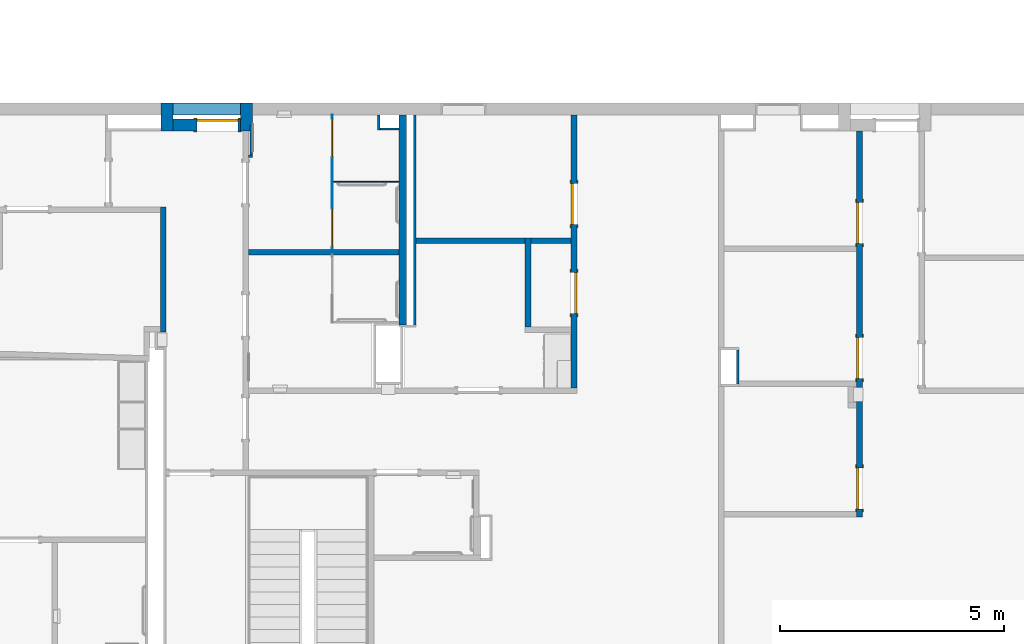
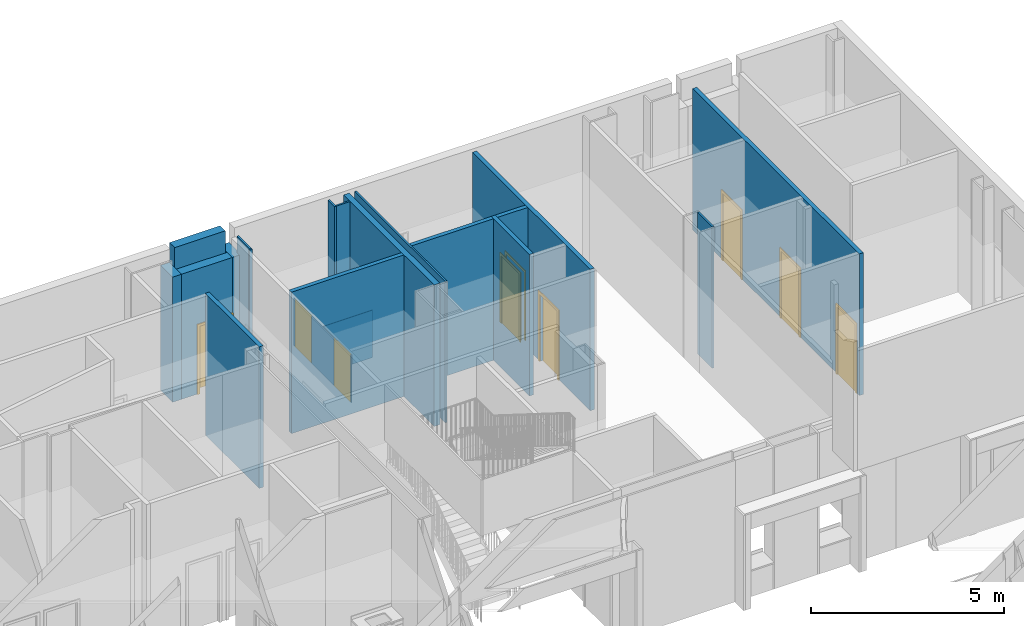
# One storey, part 40 of 82: 20 walls, 8 doors, 8 openings.
"""IFC2X3 building model written with IfcOpenShell, lengths in metres."""

import ifcopenshell
import ifcopenshell.guid

model = None  # the IFC model being written
_history = None  # IfcOwnerHistory: only IFC2X3 demands one
_inside = {}  # id of a spatial element -> (the spatial element, [elements in it])
_under = {}  # id of a project, library or spatial element -> (it, [spatial elements below it])
_declared = {}  # id of a project -> (the project, [libraries it declares])
_typed = {}  # id of a type object -> (the type object, [elements of that type])
_made_of = {}  # id of a material, layer set ... -> (it, [elements and type objects made of it])


def new_model(schema):
    """Start an empty IFC model of exactly this schema.

    Asked for "IFC4X3", IfcOpenShell would pick the latest addendum, in which some entities
    have other attributes; the version numbers below select the first issue.
    IFC2X3 requires an IfcOwnerHistory on every rooted entity: one is made here for all.
    """
    global model, _history
    if schema == "IFC4X3":
        model = ifcopenshell.file(schema_version=(4, 3, 0, 0))
    else:
        model = ifcopenshell.file(schema=schema)
    _inside.clear()
    _under.clear()
    _declared.clear()
    _typed.clear()
    _made_of.clear()
    _history = None
    if model.schema == "IFC2X3":
        org = make("IfcOrganization", Name="unknown")
        user = make(
            "IfcPersonAndOrganization",
            ThePerson=make("IfcPerson", FamilyName="unknown"),
            TheOrganization=org,
        )
        app = make(
            "IfcApplication",
            ApplicationDeveloper=org,
            Version="unknown",
            ApplicationFullName="unknown",
            ApplicationIdentifier="unknown",
        )
        _history = make(
            "IfcOwnerHistory",
            OwningUser=user,
            OwningApplication=app,
            ChangeAction="ADDED",
            CreationDate=0,
        )
    return model


def make(cls, **values):
    """One entity of the class cls with the attributes given. An attribute that is None is left unset."""
    return model.create_entity(
        cls, **{name: value for name, value in values.items() if value is not None}
    )


def entity(cls, *values):
    """Any entity or typed value of the class cls, its attributes in the order of the schema. None: left unset."""
    e = model.create_entity(cls)
    for i, value in enumerate(values):
        if value is not None:
            e[i] = value
    return e


def rooted(cls, **values):
    """An entity with a GlobalId (a new one), such as an element, a storey or a relation."""
    return make(cls, GlobalId=ifcopenshell.guid.new(), OwnerHistory=_history, **values)


def si_unit(unit_type, name, prefix=None):
    """IfcSIUnit, for example si_unit("LENGTHUNIT", "METRE", prefix="MILLI")."""
    return make("IfcSIUnit", UnitType=unit_type, Prefix=prefix, Name=name)


def converted_unit(unit_type, name, factor, base, dimensions=None, offset=None):
    """IfcConversionBasedUnit, such as the inch: factor (a typed value) times the base unit."""
    return make(
        "IfcConversionBasedUnit"
        if offset is None
        else "IfcConversionBasedUnitWithOffset",
        ConversionOffset=offset,
        Dimensions=None
        if dimensions is None
        else entity("IfcDimensionalExponents", *dimensions),
        UnitType=unit_type,
        Name=name,
        ConversionFactor=make(
            "IfcMeasureWithUnit", ValueComponent=factor, UnitComponent=base
        ),
    )


def assignment(units):
    """IfcUnitAssignment: the units of a project."""
    return None if units is None else make("IfcUnitAssignment", Units=units)


def point(xyz):
    """IfcCartesianPoint."""
    return None if xyz is None else make("IfcCartesianPoint", Coordinates=xyz)


def direction(xyz):
    """IfcDirection."""
    return None if xyz is None else make("IfcDirection", DirectionRatios=xyz)


def frame(location, z_axis=None, x_axis=None):
    """IfcAxis2Placement3D, a coordinate frame: its origin and axes. An axis left out is left unset."""
    return make(
        "IfcAxis2Placement3D",
        Location=point(location),
        Axis=direction(z_axis),
        RefDirection=direction(x_axis),
    )


def frame_2d(location, x_axis=None):
    """IfcAxis2Placement2D, a coordinate frame in the plane: its origin and x axis."""
    return make(
        "IfcAxis2Placement2D", Location=point(location), RefDirection=direction(x_axis)
    )


def origin():
    """The frame at (0, 0, 0) with its axes left unset."""
    return frame((0.0, 0.0, 0.0))


def origin_2d_with_axis():
    """The frame at (0, 0) in the plane with the x axis (1, 0) written out."""
    return frame_2d((0.0, 0.0), x_axis=(1.0, 0.0))


def place(relative_to, where):
    """IfcLocalPlacement: puts the frame where relative to a parent placement (None: the world)."""
    return make(
        "IfcLocalPlacement", PlacementRelTo=relative_to, RelativePlacement=where
    )


def context(
    kind, dimensions, precision=None, world=None, true_north=None, identifier=None
):
    """IfcGeometricRepresentationContext, for example the 3D "Model" context."""
    return make(
        "IfcGeometricRepresentationContext",
        ContextIdentifier=identifier,
        ContextType=kind,
        CoordinateSpaceDimension=dimensions,
        Precision=precision,
        WorldCoordinateSystem=world,
        TrueNorth=true_north,
    )


def project(units=None, contexts=None):
    """IfcProject with its units and contexts."""
    return rooted(
        "IfcProject",
        Name="project",
        RepresentationContexts=contexts,
        UnitsInContext=assignment(units),
    )


def spatial(cls, under=None, at=None, **own):
    """A site, building, storey or space (cls), placed at a placement, below another one or the project."""
    s = rooted(cls, ObjectPlacement=at, **own)
    if under is not None:
        _under.setdefault(under.id(), (under, []))[1].append(s)
    return s


def polyline(points):
    """IfcPolyline through the points."""
    return make("IfcPolyline", Points=[point(p) for p in points])


def profile(cls, at=None, kind="AREA", **sizes):
    """A parametric profile (cls). Its sizes go by their IFC names, for example OverallWidth=200.0."""
    return make(cls, ProfileType=kind, Position=at, **sizes)


def rectangle(**sizes):
    """IfcRectangleProfileDef."""
    return profile("IfcRectangleProfileDef", **sizes)


def outline(outer, holes=None, kind="AREA"):
    """IfcArbitraryClosedProfileDef: a profile drawn as a closed curve; with holes, ...WithVoids."""
    if holes is None:
        return make("IfcArbitraryClosedProfileDef", ProfileType=kind, OuterCurve=outer)
    return make(
        "IfcArbitraryProfileDefWithVoids",
        ProfileType=kind,
        OuterCurve=outer,
        InnerCurves=holes,
    )


def extrude(swept, where, along, depth):
    """IfcExtrudedAreaSolid: the profile swept, set in the frame where, extruded along a direction by depth."""
    return make(
        "IfcExtrudedAreaSolid",
        SweptArea=swept,
        Position=where,
        ExtrudedDirection=direction(along),
        Depth=depth,
    )


def shape(context_of_items, identifier, shape_type, items):
    """IfcShapeRepresentation: the items that make up one representation, for example the "Body"."""
    return make(
        "IfcShapeRepresentation",
        ContextOfItems=context_of_items,
        RepresentationIdentifier=identifier,
        RepresentationType=shape_type,
        Items=items,
    )


def source(mapping_origin, context_of_items, identifier, shape_type, items):
    """IfcRepresentationMap: a shape defined once, which mapped items show again and again."""
    return make(
        "IfcRepresentationMap",
        MappingOrigin=mapping_origin,
        MappedRepresentation=shape(context_of_items, identifier, shape_type, items),
    )


def transform(
    local_origin,
    x_axis=None,
    y_axis=None,
    z_axis=None,
    scale=None,
    scale2=None,
    scale3=None,
    uniform=True,
):
    """IfcCartesianTransformationOperator3D, or its non-uniform kind. x_axis, y_axis, z_axis: its Axis1, 2, 3."""
    if uniform:
        return make(
            "IfcCartesianTransformationOperator3D",
            Axis1=direction(x_axis),
            Axis2=direction(y_axis),
            LocalOrigin=point(local_origin),
            Scale=scale,
            Axis3=direction(z_axis),
        )
    return make(
        "IfcCartesianTransformationOperator3DnonUniform",
        Axis1=direction(x_axis),
        Axis2=direction(y_axis),
        LocalOrigin=point(local_origin),
        Scale=scale,
        Axis3=direction(z_axis),
        Scale2=scale2,
        Scale3=scale3,
    )


def mapped(mapping_source, mapping_target):
    """IfcMappedItem: shows the shape of a source again, moved by a transform."""
    return make(
        "IfcMappedItem", MappingSource=mapping_source, MappingTarget=mapping_target
    )


def material(Name=None, Category=None):
    """IfcMaterial."""
    return make("IfcMaterial", Name=Name, Category=Category)


def layer(
    of_material, thickness, ventilated=None, Name=None, Category=None, Priority=None
):
    """IfcMaterialLayer: one layer of a wall or slab, of a material (None: an air gap)."""
    return make(
        "IfcMaterialLayer",
        Material=of_material,
        LayerThickness=thickness,
        IsVentilated=ventilated,
        Name=Name,
        Category=Category,
        Priority=Priority,
    )


def layer_set(layers, Name=None):
    """IfcMaterialLayerSet."""
    return make("IfcMaterialLayerSet", MaterialLayers=layers, LayerSetName=Name)


def layer_usage(for_layer_set, set_direction, sense, offset, extent=None):
    """IfcMaterialLayerSetUsage: how a layer set lies in its element."""
    return make(
        "IfcMaterialLayerSetUsage",
        ForLayerSet=for_layer_set,
        LayerSetDirection=set_direction,
        DirectionSense=sense,
        OffsetFromReferenceLine=offset,
        ReferenceExtent=extent,
    )


def made_of(thing, what):
    """Note that an element or type object is made of a material, layer set ...; save() writes the relation."""
    if what is not None:
        _made_of.setdefault(what.id(), (what, []))[1].append(thing)
    return thing


def type_object(cls, material=None, **own):
    """A type object (cls), such as IfcWallType, which elements share."""
    return made_of(rooted(cls, **own), material)


def type_shapes(of_type, sources):
    """Give a type object the sources (RepresentationMaps) that its elements show as mapped items."""
    of_type.RepresentationMaps = sources


def element(
    cls,
    number,
    at=None,
    inside=None,
    cuts=None,
    type_object=None,
    material=None,
    context=None,
    identifier="Body",
    shape_type=None,
    held_by="IfcProductDefinitionShape",
    body=None,
    shapes=None,
    **own,
):
    """One element of the class cls, such as IfcWall. Its Tag is "e" and its number.

    at: its placement. inside: the storey or other place that contains it. cuts: it is an
    opening in that element (IfcRelVoidsElement). A single representation is given by context,
    identifier, shape_type and body (its items); several are given by shapes. held_by: the class
    of the entity that holds the representations. save() writes the other relations.
    """
    e = rooted(cls, Tag="e%d" % number, ObjectPlacement=at, **own)
    if body is not None:
        shapes = [shape(context, identifier, shape_type, body)]
    if shapes is not None:
        e.Representation = make(held_by, Representations=shapes)
    if inside is not None:
        _inside.setdefault(inside.id(), (inside, []))[1].append(e)
    if cuts is not None:
        rooted(
            "IfcRelVoidsElement", RelatingBuildingElement=cuts, RelatedOpeningElement=e
        )
    if type_object is not None:
        _typed.setdefault(type_object.id(), (type_object, []))[1].append(e)
    return made_of(e, material)


def fill(opening, filler):
    """IfcRelFillsElement: the door or window that sits in an opening."""
    return rooted(
        "IfcRelFillsElement",
        RelatingOpeningElement=opening,
        RelatedBuildingElement=filler,
    )


def aggregate(whole, parts):
    """IfcRelAggregates: a whole, such as a stair, and the parts it consists of."""
    return rooted("IfcRelAggregates", RelatingObject=whole, RelatedObjects=parts)


def save(model, path):
    """Write the relations noted so far, then the file.

    IfcRelAggregates (storeys below a building ...), IfcRelContainedInSpatialStructure (elements
    in a storey), IfcRelDefinesByType, IfcRelAssociatesMaterial and IfcRelDeclares: one each for
    every whole, place, type object, material and project.
    """
    for whole, parts in _under.values():
        aggregate(whole, parts)
    for where, things in _inside.values():
        rooted(
            "IfcRelContainedInSpatialStructure",
            RelatedElements=things,
            RelatingStructure=where,
        )
    for kind, things in _typed.values():
        rooted("IfcRelDefinesByType", RelatedObjects=things, RelatingType=kind)
    for what, things in _made_of.values():
        rooted("IfcRelAssociatesMaterial", RelatedObjects=things, RelatingMaterial=what)
    for by, libraries in _declared.values():
        rooted("IfcRelDeclares", RelatingContext=by, RelatedDefinitions=libraries)
    model.write(path)


model = new_model("IFC2X3")

# Units and contexts
model_context = context("Model", 3, precision=1e-09, world=origin())
plan_context = context("Plan", 3, precision=1e-09, world=origin())
ifc_project = project(units=[si_unit("LENGTHUNIT", "METRE"), si_unit("AREAUNIT", "SQUARE_METRE"), si_unit("VOLUMEUNIT", "CUBIC_METRE"), converted_unit("PLANEANGLEUNIT", "DEGREE", entity("IfcRatioMeasure", 0.01745329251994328), si_unit("PLANEANGLEUNIT", "RADIAN"), dimensions=[0, 0, 0, 0, 0, 0, 0]), si_unit("TIMEUNIT", "SECOND")], contexts=[model_context, plan_context])

# Site, building, storey
site_placement = place(None, origin())
site = spatial("IfcSite", under=ifc_project, at=site_placement, Name="Default", CompositionType="ELEMENT")
building_placement = place(site_placement, origin())
building = spatial("IfcBuilding", under=site, at=building_placement, CompositionType="ELEMENT")
storey_placement = place(building_placement, origin())
storey = spatial("IfcBuildingStorey", under=building, at=storey_placement, Name="First Floor", CompositionType="ELEMENT", Elevation=-3.531500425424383e-13)

# Wall, openings, doors
ifc_material_1 = material(Name="Plasterboard")
ifc_layer_1 = layer(ifc_material_1, 0.016)
ifc_material_2 = material(Name="Metal - Stud Layer")
ifc_layer_2 = layer(ifc_material_2, 0.092)
ifc_layer_3 = layer(ifc_material_1, 0.016)
ifc_layer_set_1 = layer_set([ifc_layer_1, ifc_layer_2, ifc_layer_3], Name="Basic Wall:Interior - Partition (92mm Stud)")
ifc_layer_usage_1 = layer_usage(ifc_layer_set_1, "AXIS2", "NEGATIVE", 0.062)
wall_1_placement = place(storey_placement, frame((-4.362000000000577, 49.84299999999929, 0.0), z_axis=(0.0, 0.0, 1.0), x_axis=(0.0, -1.0, 0.0)))
wall_1 = element("IfcWallStandardCase", 1, at=wall_1_placement, inside=storey, material=ifc_layer_usage_1, Name="Basic Wall:Interior - Partition (92mm Stud)", ObjectType="Basic Wall:Interior - Partition (92mm Stud)", context=model_context, shape_type="SweptSolid", body=[
    extrude(rectangle(XDim=8.613000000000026, YDim=0.124, at=frame_2d((4.306500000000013, 0.0), x_axis=(-1.0, 0.0))), origin(), (0.0, 0.0, 1.0), 4.46800000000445),
])
opening_1_placement = place(wall_1_placement, frame((8.429000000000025, 0.06199999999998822, 0.0)))
opening_1 = element("IfcOpeningElement", 2, at=opening_1_placement, cuts=wall_1, Name="M_Single-Flush:0915 x 2134mm:0915 x 2134mm:1", ObjectType="Opening", context=model_context, shape_type="SweptSolid", body=[
    extrude(rectangle(XDim=0.9149999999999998, YDim=2.134, at=frame_2d((1.067, 0.4574999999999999), x_axis=(0.0, -1.0))), frame((0.0, 0.0, 0.0), z_axis=(0.0, -1.0, 0.0), x_axis=(0.0, 0.0, 1.0)), (0.0, 0.0, 1.0), 0.124),
])
opening_2_placement = place(wall_1_placement, frame((2.50900000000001, 0.06199999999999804, 0.0)))
opening_2 = element("IfcOpeningElement", 3, at=opening_2_placement, cuts=wall_1, Name="M_Single-Flush:0915 x 2134mm:0915 x 2134mm:1", ObjectType="Opening", context=model_context, shape_type="SweptSolid", body=[
    extrude(rectangle(XDim=0.9149999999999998, YDim=2.134, at=frame_2d((1.067, 0.4574999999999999), x_axis=(0.0, -1.0))), frame((0.0, 0.0, 0.0), z_axis=(0.0, -1.0, 0.0), x_axis=(0.0, 0.0, 1.0)), (0.0, 0.0, 1.0), 0.124),
])
opening_3_placement = place(wall_1_placement, frame((5.519000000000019, 0.06199999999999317, 0.0)))
opening_3 = element("IfcOpeningElement", 4, at=opening_3_placement, cuts=wall_1, Name="M_Single-Flush:0915 x 2134mm:0915 x 2134mm:1", ObjectType="Opening", context=model_context, shape_type="SweptSolid", body=[
    extrude(rectangle(XDim=0.9149999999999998, YDim=2.134, at=frame_2d((1.067, 0.4574999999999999), x_axis=(0.0, -1.0))), frame((0.0, 0.0, 0.0), z_axis=(0.0, -1.0, 0.0), x_axis=(0.0, 0.0, 1.0)), (0.0, 0.0, 1.0), 0.124),
])
door_style_1 = type_object("IfcDoorStyle", Name="0915 x 2134mm", ConstructionType="NOTDEFINED", OperationType="SINGLE_SWING_LEFT", ParameterTakesPrecedence=False, Sizeable=False)
shared_shape_1 = source(origin(), model_context, "Body", "SweptSolid", [
    extrude(outline(polyline([(-0.5335, -1.123999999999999), (0.5334999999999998, -1.123999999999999), (0.5334999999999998, 1.086), (0.4574999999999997, 1.086), (0.4574999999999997, -1.048000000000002), (-0.4574999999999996, -1.048000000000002), (-0.4574999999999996, 1.086), (-0.5335, 1.086), (-0.5335, -1.123999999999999)])), frame((0.4575000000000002, 0.1489999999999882, 1.086), z_axis=(0.0, -1.0, 0.0), x_axis=(-1.0, 0.0, 0.0)), (0.0, 0.0, 1.0), 0.02499999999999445),
    extrude(outline(polyline([(-1.123999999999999, -0.5334999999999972), (1.085999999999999, -0.5334999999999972), (1.085999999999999, -0.4575000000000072), (-1.048, -0.4575000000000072), (-1.048, 0.4575000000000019), (1.085999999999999, 0.4575000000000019), (1.085999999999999, 0.5335000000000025), (-1.123999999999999, 0.5335000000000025), (-1.123999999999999, -0.5334999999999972)])), frame((0.4574999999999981, 0.0, 1.085999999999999), z_axis=(0.0, -1.0, 0.0), x_axis=(0.0, 0.0, -1.0)), (0.0, 0.0, 1.0), 0.02500000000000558),
    extrude(rectangle(XDim=0.9149999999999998, YDim=0.051, at=origin_2d_with_axis()), frame((0.4575000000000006, 0.09849999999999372, 0.0)), (0.0, 0.0, 1.0), 2.133999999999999),
])
type_shapes(door_style_1, [shared_shape_1])
door_1_placement = place(opening_3_placement, frame((0.0, 0.0, 0.0), z_axis=(0.0, 0.0, 1.0), x_axis=(-1.0, 0.0, 0.0)))
door_1 = element("IfcDoor", 5, at=door_1_placement, inside=storey, type_object=door_style_1, Name="M_Single-Flush:0915 x 2134mm:0915 x 2134mm", ObjectType="0915 x 2134mm", OverallHeight=2.134, OverallWidth=0.9149999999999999, context=model_context, shape_type="MappedRepresentation", body=[
    mapped(shared_shape_1, transform((0.0, 0.0, 0.0), scale=1.0)),
])
fill(opening_3, door_1)
door_2_placement = place(opening_1_placement, frame((0.0, 0.0, 0.0), z_axis=(0.0, 0.0, 1.0), x_axis=(-1.0, 0.0, 0.0)))
door_2 = element("IfcDoor", 6, at=door_2_placement, inside=storey, type_object=door_style_1, Name="M_Single-Flush:0915 x 2134mm:0915 x 2134mm", ObjectType="0915 x 2134mm", OverallHeight=2.134, OverallWidth=0.9149999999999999, context=model_context, shape_type="MappedRepresentation", body=[
    mapped(shared_shape_1, transform((0.0, 0.0, 0.0), scale=1.0)),
])
fill(opening_1, door_2)
door_3_placement = place(opening_2_placement, frame((0.0, 0.0, 0.0), z_axis=(0.0, 0.0, 1.0), x_axis=(-1.0, 0.0, 0.0)))
door_3 = element("IfcDoor", 7, at=door_3_placement, inside=storey, type_object=door_style_1, Name="M_Single-Flush:0915 x 2134mm:0915 x 2134mm", ObjectType="0915 x 2134mm", OverallHeight=2.134, OverallWidth=0.9149999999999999, context=model_context, shape_type="MappedRepresentation", body=[
    mapped(shared_shape_1, transform((0.0, 0.0, 0.0), scale=1.0)),
])
fill(opening_2, door_3)

wall_2_placement = place(storey_placement, frame((-10.7320000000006, 50.20299999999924, 0.0), z_axis=(0.0, 0.0, 1.0), x_axis=(0.0, -1.0, 0.0)))
wall_2 = element("IfcWallStandardCase", 8, at=wall_2_placement, inside=storey, material=ifc_layer_usage_1, Name="Basic Wall:Interior - Partition (92mm Stud)", ObjectType="Basic Wall:Interior - Partition (92mm Stud)", context=model_context, shape_type="SweptSolid", body=[
    extrude(rectangle(XDim=6.088999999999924, YDim=0.1240000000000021, at=frame_2d((3.044499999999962, 0.0), x_axis=(-1.0, 0.0))), origin(), (0.0, 0.0, 1.0), 4.46800000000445),
])
opening_4_placement = place(wall_2_placement, frame((2.443999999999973, 0.06199999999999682, 0.0)))
opening_4 = element("IfcOpeningElement", 9, at=opening_4_placement, cuts=wall_2, Name="M_Single-Flush:0915 x 2134mm:0915 x 2134mm:1", ObjectType="Opening", context=model_context, shape_type="SweptSolid", body=[
    extrude(rectangle(XDim=0.9149999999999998, YDim=2.134, at=frame_2d((1.067, 0.4574999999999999), x_axis=(0.0, -1.0))), frame((0.0, 0.0, 0.0), z_axis=(0.0, -1.0, 0.0), x_axis=(0.0, 0.0, 1.0)), (0.0, 0.0, 1.0), 0.124),
])
opening_5_placement = place(wall_2_placement, frame((3.513999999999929, -0.06200000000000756, 0.0)))
opening_5 = element("IfcOpeningElement", 10, at=opening_5_placement, cuts=wall_2, Name="M_Single-Flush:0915 x 2134mm:0915 x 2134mm:1", ObjectType="Opening", context=model_context, shape_type="SweptSolid", body=[
    extrude(rectangle(XDim=0.9149999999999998, YDim=2.134, at=frame_2d((1.067, 0.4575), x_axis=(0.0, 1.0))), frame((0.0, 0.0, 0.0), z_axis=(0.0, 1.0, 0.0), x_axis=(0.0, 0.0, 1.0)), (0.0, 0.0, 1.0), 0.124),
])
door_style_2 = type_object("IfcDoorStyle", Name="0915 x 2134mm", ConstructionType="NOTDEFINED", OperationType="SINGLE_SWING_RIGHT", ParameterTakesPrecedence=False, Sizeable=False)
shared_shape_2 = source(origin(), model_context, "Body", "SweptSolid", [
    extrude(outline(polyline([(-0.5335, -1.123999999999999), (0.5334999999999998, -1.123999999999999), (0.5334999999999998, 1.086), (0.4574999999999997, 1.086), (0.4574999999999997, -1.048000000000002), (-0.4574999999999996, -1.048000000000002), (-0.4574999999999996, 1.086), (-0.5335, 1.086), (-0.5335, -1.123999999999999)])), frame((0.4575000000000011, 0.1239999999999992, 1.086), z_axis=(0.0, 1.0, 0.0), x_axis=(1.0, 0.0, 0.0)), (0.0, 0.0, 1.0), 0.02499999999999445),
    extrude(outline(polyline([(-1.123999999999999, -0.5334999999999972), (1.085999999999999, -0.5334999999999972), (1.085999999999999, -0.4575000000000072), (-1.048, -0.4575000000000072), (-1.048, 0.4575000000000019), (1.085999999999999, 0.4575000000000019), (1.085999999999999, 0.5335000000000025), (-1.123999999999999, 0.5335000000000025), (-1.123999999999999, -0.5334999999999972)])), frame((0.4575000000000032, -0.02500000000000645, 1.085999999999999), z_axis=(0.0, 1.0, 0.0), x_axis=(0.0, 0.0, -1.0)), (0.0, 0.0, 1.0), 0.02500000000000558),
    extrude(rectangle(XDim=0.051, YDim=0.9149999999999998, at=origin_2d_with_axis()), frame((0.4575000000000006, 0.09849999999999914, 0.0), z_axis=(0.0, 0.0, 1.0), x_axis=(0.0, 1.0, 0.0)), (0.0, 0.0, 1.0), 2.133999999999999),
])
type_shapes(door_style_2, [shared_shape_2])
door_4_placement = place(opening_5_placement, origin())
door_4 = element("IfcDoor", 11, at=door_4_placement, inside=storey, type_object=door_style_2, Name="M_Single-Flush:0915 x 2134mm:0915 x 2134mm", ObjectType="0915 x 2134mm", OverallHeight=2.134, OverallWidth=0.9149999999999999, context=model_context, shape_type="MappedRepresentation", body=[
    mapped(shared_shape_2, transform((0.0, 0.0, 0.0), scale=1.0)),
])
fill(opening_5, door_4)
door_5_placement = place(opening_4_placement, frame((0.0, 0.0, 0.0), z_axis=(0.0, 0.0, 1.0), x_axis=(-1.0, 0.0, 0.0)))
door_5 = element("IfcDoor", 12, at=door_5_placement, inside=storey, type_object=door_style_1, Name="M_Single-Flush:0915 x 2134mm:0915 x 2134mm", ObjectType="0915 x 2134mm", OverallHeight=2.134, OverallWidth=0.9149999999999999, context=model_context, shape_type="MappedRepresentation", body=[
    mapped(shared_shape_1, transform((0.0, 0.0, 0.0), scale=1.0)),
])
fill(opening_4, door_5)

# Wall
ifc_layer_4 = layer(ifc_material_2, 0.152)
ifc_layer_5 = layer(ifc_material_1, 0.016)
ifc_layer_set_2 = layer_set([ifc_layer_4, ifc_layer_5], Name="Basic Wall:Interior - Furring (152 mm Stud)")
ifc_layer_usage_2 = layer_usage(ifc_layer_set_2, "AXIS2", "POSITIVE", -0.08399999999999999)
wall_3_placement = place(storey_placement, frame((-14.55600000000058, 45.51900003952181, 0.0), z_axis=(0.0, 0.0, 1.0), x_axis=(0.0, 1.0, 0.0)))
element("IfcWallStandardCase", 13, at=wall_3_placement, inside=storey, material=ifc_layer_usage_2, Name="Basic Wall:Interior - Furring (152 mm Stud)", ObjectType="Basic Wall:Interior - Furring (152 mm Stud)", context=model_context, shape_type="SweptSolid", body=[
    extrude(rectangle(XDim=4.683999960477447, YDim=0.1680000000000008, at=frame_2d((2.341999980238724, 0.0), x_axis=(-1.0, 0.0))), origin(), (0.0, 0.0, 1.0), 4.468000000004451),
])

# Wall, opening, door
ifc_material_3 = material(Name="Insulation - Insulated Panel")
ifc_layer_6 = layer(ifc_material_3, 0.042)
ifc_material_4 = material(Name="Metal - Firring")
ifc_layer_7 = layer(ifc_material_4, 0.038)
ifc_material_5 = material(Name="Wood - Sheathing - plywood")
ifc_layer_8 = layer(ifc_material_5, 0.019)
ifc_layer_9 = layer(ifc_material_2, 0.152)
ifc_layer_10 = layer(ifc_material_1, 0.016)
ifc_layer_set_3 = layer_set([ifc_layer_6, ifc_layer_7, ifc_layer_8, ifc_layer_9, ifc_layer_10], Name="Basic Wall:Exterior - Insul Panel on Mtl. Stud")
ifc_layer_usage_3 = layer_usage(ifc_layer_set_3, "AXIS2", "NEGATIVE", 0.1335)
wall_4_placement = place(storey_placement, frame((-19.68200000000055, 49.97649999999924, 0.0)))
wall_4 = element("IfcWallStandardCase", 14, at=wall_4_placement, inside=storey, material=ifc_layer_usage_3, Name="Basic Wall:Exterior - Insul Panel on Mtl. Stud", ObjectType="Basic Wall:Exterior - Insul Panel on Mtl. Stud", context=model_context, shape_type="SweptSolid", body=[
    extrude(rectangle(XDim=1.511999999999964, YDim=0.2670000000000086, at=frame_2d((0.7559999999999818, 0.0), x_axis=(-1.0, 0.0))), origin(), (0.0, 0.0, 1.0), 3.949500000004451),
])
opening_6_placement = place(wall_4_placement, frame((0.5369999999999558, -0.133500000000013, 0.0)))
opening_6 = element("IfcOpeningElement", 15, at=opening_6_placement, cuts=wall_4, Name="M_Single-Flush:0915 x 2134mm Exterior:0915 x 2134mm Exterior:1", ObjectType="Opening", context=model_context, shape_type="SweptSolid", body=[
    extrude(rectangle(XDim=0.9149999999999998, YDim=2.134, at=frame_2d((1.067, 0.4575), x_axis=(0.0, 1.0))), frame((0.0, 0.0, 0.0), z_axis=(0.0, 1.0, 0.0), x_axis=(0.0, 0.0, 1.0)), (0.0, 0.0, 1.0), 0.267),
])
door_style_3 = type_object("IfcDoorStyle", Name="0915 x 2134mm Exterior", ConstructionType="NOTDEFINED", OperationType="SINGLE_SWING_RIGHT", ParameterTakesPrecedence=False, Sizeable=False)
shared_shape_3 = source(origin(), model_context, "Body", "SweptSolid", [
    extrude(outline(polyline([(-0.5335, -1.123999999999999), (0.5334999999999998, -1.123999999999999), (0.5334999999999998, 1.086), (0.4574999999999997, 1.086), (0.4574999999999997, -1.048000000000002), (-0.4574999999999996, -1.048000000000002), (-0.4574999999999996, 1.086), (-0.5335, 1.086), (-0.5335, -1.123999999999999)])), frame((0.4575000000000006, 0.2669999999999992, 1.086), z_axis=(0.0, 1.0, 0.0), x_axis=(1.0, 0.0, 0.0)), (0.0, 0.0, 1.0), 0.02499999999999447),
    extrude(outline(polyline([(-1.123999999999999, -0.5334999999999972), (1.085999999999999, -0.5334999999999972), (1.085999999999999, -0.4575000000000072), (-1.048, -0.4575000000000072), (-1.048, 0.4575000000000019), (1.085999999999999, 0.4575000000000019), (1.085999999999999, 0.5335000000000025), (-1.123999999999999, 0.5335000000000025), (-1.123999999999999, -0.5334999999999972)])), frame((0.4575000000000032, -0.02500000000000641, 1.085999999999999), z_axis=(0.0, 1.0, 0.0), x_axis=(0.0, 0.0, -1.0)), (0.0, 0.0, 1.0), 0.0250000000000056),
    extrude(rectangle(XDim=0.051, YDim=0.9149999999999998, at=origin_2d_with_axis()), frame((0.4575000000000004, 0.2414999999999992, 0.0), z_axis=(0.0, 0.0, 1.0), x_axis=(0.0, 1.0, 0.0)), (0.0, 0.0, 1.0), 2.133999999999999),
])
type_shapes(door_style_3, [shared_shape_3])
door_6_placement = place(opening_6_placement, origin())
door_6 = element("IfcDoor", 16, at=door_6_placement, inside=storey, type_object=door_style_3, Name="M_Single-Flush:0915 x 2134mm Exterior:0915 x 2134mm Exterior", ObjectType="0915 x 2134mm Exterior", OverallHeight=2.134, OverallWidth=0.9149999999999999, context=model_context, shape_type="MappedRepresentation", body=[
    mapped(shared_shape_3, transform((0.0, 0.0, 0.0), scale=1.0)),
])
fill(opening_6, door_6)

# Walls
wall_5_placement = place(storey_placement, frame((-18.03650000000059, 49.84299999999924, 0.0), z_axis=(0.0, 0.0, 1.0), x_axis=(0.0, 1.0, 0.0)))
element("IfcWallStandardCase", 17, at=wall_5_placement, inside=storey, material=ifc_layer_usage_3, Name="Basic Wall:Exterior - Insul Panel on Mtl. Stud", ObjectType="Basic Wall:Exterior - Insul Panel on Mtl. Stud", context=model_context, shape_type="SweptSolid", body=[
    extrude(rectangle(XDim=0.6270000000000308, YDim=0.267, at=frame_2d((0.3135000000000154, 0.0), x_axis=(-1.0, 0.0))), origin(), (0.0, 0.0, 1.0), 3.949500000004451),
])
wall_6_placement = place(storey_placement, frame((-19.81550000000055, 50.33649999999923, 3.0)))
element("IfcWallStandardCase", 18, at=wall_6_placement, inside=storey, material=ifc_layer_usage_3, Name="Basic Wall:Exterior - Insul Panel on Mtl. Stud", ObjectType="Basic Wall:Exterior - Insul Panel on Mtl. Stud", context=model_context, shape_type="SweptSolid", body=[
    extrude(rectangle(XDim=1.511999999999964, YDim=0.2669999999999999, at=frame_2d((0.889499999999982, 0.0), x_axis=(-1.0, 0.0))), origin(), (0.0, 0.0, 1.0), 1.570000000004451),
])
ifc_layer_11 = layer(ifc_material_2, 0.038)
ifc_layer_12 = layer(ifc_material_1, 0.016)
ifc_layer_set_4 = layer_set([ifc_layer_11, ifc_layer_12], Name="Basic Wall:Interior - Furring (38 mm Stud)")
ifc_layer_usage_4 = layer_usage(ifc_layer_set_4, "AXIS2", "NEGATIVE", 0.027)
wall_7_placement = place(storey_placement, frame((-17.93000000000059, 49.30899999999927, 0.0), z_axis=(0.0, 0.0, 1.0), x_axis=(0.0, 1.0, 0.0)))
element("IfcWallStandardCase", 19, at=wall_7_placement, inside=storey, material=ifc_layer_usage_4, Name="Basic Wall:Interior - Furring (38 mm Stud)", ObjectType="Basic Wall:Interior - Furring (38 mm Stud)", context=model_context, shape_type="SweptSolid", body=[
    extrude(rectangle(XDim=0.6674999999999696, YDim=0.05400000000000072, at=frame_2d((0.3337499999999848, 0.0), x_axis=(-1.0, 0.0))), origin(), (0.0, 0.0, 1.0), 4.46800000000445),
])
wall_8_placement = place(storey_placement, frame((-19.8920000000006, 48.14999999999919, 0.0), z_axis=(0.0, 0.0, 1.0), x_axis=(0.0, -1.0, 0.0)))
element("IfcWallStandardCase", 20, at=wall_8_placement, inside=storey, material=ifc_layer_usage_1, Name="Basic Wall:Interior - Partition (92mm Stud)", ObjectType="Basic Wall:Interior - Partition (92mm Stud)", context=model_context, shape_type="SweptSolid", body=[
    extrude(rectangle(XDim=2.78999999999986, YDim=0.1239999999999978, at=frame_2d((1.39499999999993, 0.0), x_axis=(-1.0, 0.0))), origin(), (0.0, 0.0, 1.0), 4.46800000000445),
])
wall_9_placement = place(storey_placement, frame((-19.81550000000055, 50.46999999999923, 0.0), z_axis=(0.0, 0.0, 1.0), x_axis=(0.0, -1.0, 0.0)))
element("IfcWallStandardCase", 21, at=wall_9_placement, inside=storey, material=ifc_layer_usage_3, Name="Basic Wall:Exterior - Insul Panel on Mtl. Stud", ObjectType="Basic Wall:Exterior - Insul Panel on Mtl. Stud", context=model_context, shape_type="SweptSolid", body=[
    extrude(rectangle(XDim=0.6269999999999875, YDim=0.267, at=frame_2d((0.3134999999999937, 0.0), x_axis=(-1.0, 0.0))), origin(), (0.0, 0.0, 1.0), 3.949500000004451),
])
wall_10_placement = place(storey_placement, frame((-14.64000000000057, 47.14199999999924, 0.0), z_axis=(0.0, 0.0, 1.0), x_axis=(-1.0, 0.0, 0.0)))
element("IfcWallStandardCase", 22, at=wall_10_placement, inside=storey, material=ifc_layer_usage_1, Name="Basic Wall:Interior - Partition (92mm Stud)", ObjectType="Basic Wall:Interior - Partition (92mm Stud)", context=model_context, shape_type="SweptSolid", body=[
    extrude(rectangle(XDim=3.356000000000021, YDim=0.1240000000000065, at=frame_2d((1.678000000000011, 0.0), x_axis=(-1.0, 0.0))), origin(), (0.0, 0.0, 1.0), 4.46800000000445),
])

# Wall, openings, doors
ifc_material_6 = material(Name="Laminate - Ivory, Matte")
ifc_layer_13 = layer(ifc_material_6, 0.025)
ifc_layer_set_5 = layer_set([ifc_layer_13], Name="Basic Wall:Interior - Toilet Partition (25mm)")
ifc_layer_usage_5 = layer_usage(ifc_layer_set_5, "AXIS2", "POSITIVE", -0.0125)
wall_11_placement = place(storey_placement, frame((-16.12749960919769, 50.20299999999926, 0.25), z_axis=(0.0, 0.0, 1.0), x_axis=(0.0, -1.0, 0.0)))
wall_11 = element("IfcWallStandardCase", 23, at=wall_11_placement, inside=storey, material=ifc_layer_usage_5, Name="Basic Wall:Interior - Toilet Partition (25mm)", ObjectType="Basic Wall:Interior - Toilet Partition (25mm)", context=model_context, shape_type="SweptSolid", body=[
    extrude(rectangle(XDim=2.99900000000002, YDim=0.02499999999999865, at=frame_2d((1.49950000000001, 0.0), x_axis=(-1.0, 0.0))), origin(), (0.0, 0.0, 1.0), 1.5),
])
opening_7_placement = place(wall_11_placement, frame((0.08323597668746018, -0.01250000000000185, 0.0)))
opening_7 = element("IfcOpeningElement", 24, at=opening_7_placement, cuts=wall_11, Name="M_Toilet Partition:0865 x 1500mm:0865 x 1500mm:1", ObjectType="Opening", context=model_context, shape_type="SweptSolid", body=[
    extrude(rectangle(XDim=0.8649999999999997, YDim=1.5, at=frame_2d((0.7499999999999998, 0.4325000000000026), x_axis=(0.0, -1.0))), frame((0.0, 0.0, 0.0), z_axis=(0.0, 1.0, 0.0), x_axis=(0.0, 0.0, 1.0)), (0.0, 0.0, 1.0), 0.025),
])
opening_8_placement = place(wall_11_placement, frame((2.959, 0.01249999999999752, 0.0)))
opening_8 = element("IfcOpeningElement", 25, at=opening_8_placement, cuts=wall_11, Name="M_Toilet Partition:0865 x 1500mm:0865 x 1500mm:1", ObjectType="Opening", context=model_context, shape_type="SweptSolid", body=[
    extrude(rectangle(XDim=0.8649999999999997, YDim=1.5, at=frame_2d((0.7499999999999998, 0.4325000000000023), x_axis=(0.0, -1.0))), frame((0.0, 0.0, 0.0), z_axis=(0.0, -1.0, 0.0), x_axis=(0.0, 0.0, 1.0)), (0.0, 0.0, 1.0), 0.025),
])
door_style_4 = type_object("IfcDoorStyle", Name="0865 x 1500mm", ConstructionType="NOTDEFINED", OperationType="SINGLE_SWING_LEFT", ParameterTakesPrecedence=False, Sizeable=False)
shared_shape_4 = source(origin(), model_context, "Body", "SweptSolid", [
    extrude(rectangle(XDim=0.8649999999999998, YDim=0.025, at=origin_2d_with_axis()), frame((0.4325000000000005, 0.01249999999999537, 0.0)), (0.0, 0.0, 1.0), 1.499999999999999),
])
type_shapes(door_style_4, [shared_shape_4])
door_7_placement = place(opening_8_placement, frame((0.0, 0.0, 0.0), z_axis=(0.0, 0.0, 1.0), x_axis=(-1.0, 0.0, 0.0)))
door_7 = element("IfcDoor", 26, at=door_7_placement, inside=storey, type_object=door_style_4, Name="M_Toilet Partition:0865 x 1500mm:0865 x 1500mm", ObjectType="0865 x 1500mm", OverallHeight=1.5, OverallWidth=0.8650000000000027, context=model_context, shape_type="MappedRepresentation", body=[
    mapped(shared_shape_4, transform((0.0, 0.0, 0.0), scale=1.0)),
])
fill(opening_8, door_7)
door_8_placement = place(opening_7_placement, origin())
door_8 = element("IfcDoor", 27, at=door_8_placement, inside=storey, type_object=door_style_4, Name="M_Toilet Partition:0865 x 1500mm:0865 x 1500mm", ObjectType="0865 x 1500mm", OverallHeight=1.5, OverallWidth=0.8650000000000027, context=model_context, shape_type="MappedRepresentation", body=[
    mapped(shared_shape_4, transform((0.0, 0.0, 0.0), scale=1.0)),
])
fill(opening_7, door_8)

# Walls
ifc_layer_usage_6 = layer_usage(ifc_layer_set_4, "AXIS2", "POSITIVE", -0.027)
wall_12_placement = place(storey_placement, frame((-14.28700000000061, 50.20299999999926, 0.0), z_axis=(0.0, 0.0, 1.0), x_axis=(0.0, -1.0, 0.0)))
element("IfcWallStandardCase", 28, at=wall_12_placement, inside=storey, material=ifc_layer_usage_6, Name="Basic Wall:Interior - Furring (38 mm Stud)", ObjectType="Basic Wall:Interior - Furring (38 mm Stud)", context=model_context, shape_type="SweptSolid", body=[
    extrude(rectangle(XDim=4.683999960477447, YDim=0.05400000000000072, at=frame_2d((2.341999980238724, 0.0), x_axis=(-1.0, 0.0))), origin(), (0.0, 0.0, 1.0), 4.468000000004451),
])
wall_13_placement = place(storey_placement, frame((-11.82000000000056, 47.39699999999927, 0.0), z_axis=(0.0, 0.0, 1.0), x_axis=(-1.0, 0.0, 0.0)))
element("IfcWallStandardCase", 29, at=wall_13_placement, inside=storey, material=ifc_layer_usage_1, Name="Basic Wall:Interior - Partition (92mm Stud)", ObjectType="Basic Wall:Interior - Partition (92mm Stud)", context=model_context, shape_type="SweptSolid", body=[
    extrude(rectangle(XDim=2.440000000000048, YDim=0.1240000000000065, at=frame_2d((1.220000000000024, 0.0), x_axis=(-1.0, 0.0))), origin(), (0.0, 0.0, 1.0), 4.46800000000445),
])
wall_14_placement = place(storey_placement, frame((-7.07700000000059, 44.19399999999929, 0.0), z_axis=(0.0, 0.0, 1.0), x_axis=(0.0, 1.0, 0.0)))
element("IfcWallStandardCase", 30, at=wall_14_placement, inside=storey, material=ifc_layer_usage_4, Name="Basic Wall:Interior - Furring (38 mm Stud)", ObjectType="Basic Wall:Interior - Furring (38 mm Stud)", context=model_context, shape_type="SweptSolid", body=[
    extrude(rectangle(XDim=0.761999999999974, YDim=0.05400000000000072, at=frame_2d((0.380999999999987, 0.0), x_axis=(-1.0, 0.0))), origin(), (0.0, 0.0, 1.0), 4.468000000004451),
])
wall_15_placement = place(storey_placement, frame((-11.69600000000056, 47.39699999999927, 0.0)))
element("IfcWallStandardCase", 31, at=wall_15_placement, inside=storey, material=ifc_layer_usage_1, Name="Basic Wall:Interior - Partition (92mm Stud)", ObjectType="Basic Wall:Interior - Partition (92mm Stud)", context=model_context, shape_type="SweptSolid", body=[
    extrude(rectangle(XDim=0.9019999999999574, YDim=0.1240000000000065, at=frame_2d((0.4509999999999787, 0.0), x_axis=(-1.0, 0.0))), origin(), (0.0, 0.0, 1.0), 4.46800000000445),
])
wall_16_placement = place(storey_placement, frame((-11.75800000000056, 45.47399999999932, 0.0), z_axis=(0.0, 0.0, 1.0), x_axis=(0.0, 1.0, 0.0)))
element("IfcWallStandardCase", 32, at=wall_16_placement, inside=storey, material=ifc_layer_usage_1, Name="Basic Wall:Interior - Partition (92mm Stud)", ObjectType="Basic Wall:Interior - Partition (92mm Stud)", context=model_context, shape_type="SweptSolid", body=[
    extrude(rectangle(XDim=1.984999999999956, YDim=0.1240000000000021, at=frame_2d((0.992499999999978, 0.0), x_axis=(-1.0, 0.0))), origin(), (0.0, 0.0, 1.0), 4.46800000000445),
])
wall_17_placement = place(storey_placement, frame((-15.08297500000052, 50.20299999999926, 0.0), z_axis=(0.0, 0.0, 1.0), x_axis=(0.0, -1.0, 0.0)))
element("IfcWallStandardCase", 33, at=wall_17_placement, inside=storey, material=ifc_layer_usage_4, Name="Basic Wall:Interior - Furring (38 mm Stud)", ObjectType="Basic Wall:Interior - Furring (38 mm Stud)", context=model_context, shape_type="SweptSolid", body=[
    extrude(rectangle(XDim=0.3429999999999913, YDim=0.05400000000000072, at=frame_2d((0.1714999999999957, 0.0), x_axis=(-1.0, 0.0))), origin(), (0.0, 0.0, 1.0), 4.46800000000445),
])
wall_18_placement = place(storey_placement, frame((-15.05597500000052, 49.88699999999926, 0.0)))
element("IfcWallStandardCase", 34, at=wall_18_placement, inside=storey, material=ifc_layer_usage_4, Name="Basic Wall:Interior - Furring (38 mm Stud)", ObjectType="Basic Wall:Interior - Furring (38 mm Stud)", context=model_context, shape_type="SweptSolid", body=[
    extrude(rectangle(XDim=0.4159749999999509, YDim=0.05400000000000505, at=frame_2d((0.2079874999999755, 0.0), x_axis=(-1.0, 0.0))), origin(), (0.0, 0.0, 1.0), 4.46800000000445),
])
wall_19_placement = place(storey_placement, frame((-17.99600000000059, 49.28199999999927, 0.0)))
element("IfcWallStandardCase", 35, at=wall_19_placement, inside=storey, material=ifc_layer_usage_4, Name="Basic Wall:Interior - Furring (38 mm Stud)", ObjectType="Basic Wall:Interior - Furring (38 mm Stud)", context=model_context, shape_type="SweptSolid", body=[
    extrude(rectangle(XDim=0.09300000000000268, YDim=0.05400000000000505, at=frame_2d((0.04650000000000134, 0.0), x_axis=(-1.0, 0.0))), origin(), (0.0, 0.0, 1.0), 4.468000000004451),
])
wall_20_placement = place(storey_placement, frame((-14.64000000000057, 48.707500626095, 0.25), z_axis=(0.0, 0.0, 1.0), x_axis=(-1.0, 0.0, 0.0)))
element("IfcWallStandardCase", 36, at=wall_20_placement, inside=storey, material=ifc_layer_usage_5, Name="Basic Wall:Interior - Toilet Partition (25mm)", ObjectType="Basic Wall:Interior - Toilet Partition (25mm)", context=model_context, shape_type="SweptSolid", body=[
    extrude(rectangle(XDim=1.474999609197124, YDim=0.02499999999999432, at=frame_2d((0.7374998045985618, 0.0), x_axis=(-1.0, 0.0))), origin(), (0.0, 0.0, 1.0), 1.5),
])

save(model, "model.ifc")
